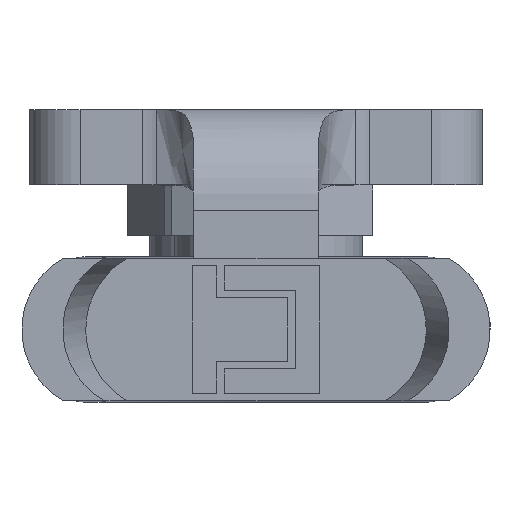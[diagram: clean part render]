
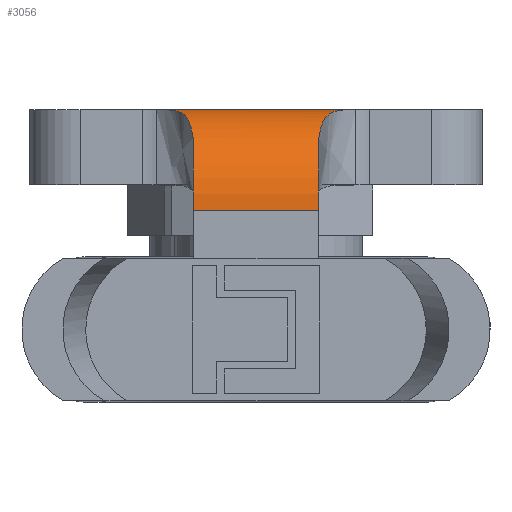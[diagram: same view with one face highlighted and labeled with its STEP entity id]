
A CAD part, left-side view. The second image highlights one B-rep face of the part: STEP entity #3056.
In plain terms, the highlighted cylindrical face has radius 4 mm (diameter 8 mm), a partial arc.
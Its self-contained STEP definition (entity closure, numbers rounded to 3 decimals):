
#19 = DIRECTION ( 'NONE',  ( 0., -1., 0. ) ) ;
#44 = CARTESIAN_POINT ( 'NONE',  ( -66.242, -3.62, -0.006 ) ) ;
#68 = CARTESIAN_POINT ( 'NONE',  ( -66.593, -3.25, -0.044 ) ) ;
#148 = VERTEX_POINT ( 'NONE', #2282 ) ;
#190 = CARTESIAN_POINT ( 'NONE',  ( -66., 3.965, 0. ) ) ;
#316 = ORIENTED_EDGE ( 'NONE', *, *, #3997, .F. ) ;
#360 = CARTESIAN_POINT ( 'NONE',  ( -66., -3.965, 0. ) ) ;
#425 = VECTOR ( 'NONE', #2624, 1000. ) ;
#436 = AXIS2_PLACEMENT_3D ( 'NONE', #3714, #19, #763 ) ;
#507 = B_SPLINE_CURVE_WITH_KNOTS ( 'NONE', 3,
 ( #3396, #2669, #44, #1553, #1950, #3043, #4515, #68, #1574, #813, #559, #982, #3585, #606, #3884, #2491 ),
 .UNSPECIFIED., .F., .F.,
 ( 4, 2, 2, 2, 2, 2, 2, 4 ),
 ( 0., 0.25, 0.375, 0.406, 0.438, 0.5, 0.75, 1. ),
 .UNSPECIFIED. ) ;
#559 = CARTESIAN_POINT ( 'NONE',  ( -66.748, -3.131, -0.07 ) ) ;
#564 = CARTESIAN_POINT ( 'NONE',  ( -67.033, 2.945, -0.135 ) ) ;
#601 = AXIS2_PLACEMENT_3D ( 'NONE', #3341, #4407, #4715 ) ;
#606 = CARTESIAN_POINT ( 'NONE',  ( -68.03, -2.626, -0.533 ) ) ;
#636 = CARTESIAN_POINT ( 'NONE',  ( -67.933, 2.648, -0.477 ) ) ;
#763 = DIRECTION ( 'NONE',  ( 0., 0., 1. ) ) ;
#813 = CARTESIAN_POINT ( 'NONE',  ( -66.693, -3.17, -0.06 ) ) ;
#831 = DIRECTION ( 'NONE',  ( 0., -1., 0. ) ) ;
#841 = CIRCLE ( 'NONE', #913, 4. ) ;
#913 = AXIS2_PLACEMENT_3D ( 'NONE', #1813, #4758, #3002 ) ;
#921 = EDGE_CURVE ( 'NONE', #1015, #1434, #1579, .T. ) ;
#940 = CARTESIAN_POINT ( 'NONE',  ( -66.97, 2.976, -0.119 ) ) ;
#965 = CARTESIAN_POINT ( 'NONE',  ( -66.883, 3.024, -0.099 ) ) ;
#975 = VECTOR ( 'NONE', #831, 1000. ) ;
#982 = CARTESIAN_POINT ( 'NONE',  ( -67.043, -2.947, -0.131 ) ) ;
#988 = CARTESIAN_POINT ( 'NONE',  ( -66.504, 3.296, -0.023 ) ) ;
#1015 = VERTEX_POINT ( 'NONE', #4486 ) ;
#1082 = FACE_OUTER_BOUND ( 'NONE', #2749, .T. ) ;
#1206 = CARTESIAN_POINT ( 'NONE',  ( -66., 9., 0. ) ) ;
#1334 = CARTESIAN_POINT ( 'NONE',  ( -66.786, 3.086, -0.078 ) ) ;
#1434 = VERTEX_POINT ( 'NONE', #4554 ) ;
#1447 = EDGE_CURVE ( 'NONE', #2041, #2148, #4534, .T. ) ;
#1553 = CARTESIAN_POINT ( 'NONE',  ( -66.412, -3.423, -0.021 ) ) ;
#1574 = CARTESIAN_POINT ( 'NONE',  ( -66.617, -3.23, -0.048 ) ) ;
#1579 = LINE ( 'NONE', #4079, #425 ) ;
#1695 = B_SPLINE_CURVE_WITH_KNOTS ( 'NONE', 3,
 ( #4340, #2112, #636, #4268, #4677, #564, #940, #965, #2042, #3590, #1747, #1334, #2840, #2426, #2061, #988, #3542, #190 ),
 .UNSPECIFIED., .F., .F.,
 ( 4, 2, 2, 2, 2, 2, 2, 2, 4 ),
 ( 0., 0.25, 0.375, 0.438, 0.469, 0.484, 0.492, 0.5, 1. ),
 .UNSPECIFIED. ) ;
#1721 = ORIENTED_EDGE ( 'NONE', *, *, #1447, .F. ) ;
#1747 = CARTESIAN_POINT ( 'NONE',  ( -66.805, 3.073, -0.082 ) ) ;
#1813 = CARTESIAN_POINT ( 'NONE',  ( -66., 2.5, -4. ) ) ;
#1950 = CARTESIAN_POINT ( 'NONE',  ( -66.468, -3.365, -0.027 ) ) ;
#2041 = VERTEX_POINT ( 'NONE', #4006 ) ;
#2042 = CARTESIAN_POINT ( 'NONE',  ( -66.856, 3.04, -0.093 ) ) ;
#2061 = CARTESIAN_POINT ( 'NONE',  ( -66.761, 3.104, -0.073 ) ) ;
#2071 = EDGE_CURVE ( 'NONE', #148, #2041, #1695, .T. ) ;
#2112 = CARTESIAN_POINT ( 'NONE',  ( -68.364, 2.566, -0.72 ) ) ;
#2148 = VERTEX_POINT ( 'NONE', #360 ) ;
#2164 = ORIENTED_EDGE ( 'NONE', *, *, #2071, .F. ) ;
#2282 = CARTESIAN_POINT ( 'NONE',  ( -68.787, 2.5, -1.131 ) ) ;
#2321 = EDGE_CURVE ( 'NONE', #2148, #3274, #507, .T. ) ;
#2426 = CARTESIAN_POINT ( 'NONE',  ( -66.768, 3.098, -0.074 ) ) ;
#2491 = CARTESIAN_POINT ( 'NONE',  ( -68.787, -2.5, -1.131 ) ) ;
#2537 = CYLINDRICAL_SURFACE ( 'NONE', #601, 4. ) ;
#2624 = DIRECTION ( 'NONE',  ( 0., -1., 0. ) ) ;
#2669 = CARTESIAN_POINT ( 'NONE',  ( -66.123, -3.778, 0. ) ) ;
#2749 = EDGE_LOOP ( 'NONE', ( #316, #4727, #1721, #2164, #3937, #3942 ) ) ;
#2840 = CARTESIAN_POINT ( 'NONE',  ( -66.78, 3.09, -0.077 ) ) ;
#3002 = DIRECTION ( 'NONE',  ( 0., 0., 1. ) ) ;
#3043 = CARTESIAN_POINT ( 'NONE',  ( -66.536, -3.3, -0.036 ) ) ;
#3056 = ADVANCED_FACE ( 'NONE', ( #1082 ), #2537, .T. ) ;
#3252 = EDGE_CURVE ( 'NONE', #1015, #148, #841, .T. ) ;
#3274 = VERTEX_POINT ( 'NONE', #4476 ) ;
#3341 = CARTESIAN_POINT ( 'NONE',  ( -66., -9.343, -4. ) ) ;
#3396 = CARTESIAN_POINT ( 'NONE',  ( -66., -3.965, 0. ) ) ;
#3542 = CARTESIAN_POINT ( 'NONE',  ( -66.25, 3.582, 0. ) ) ;
#3585 = CARTESIAN_POINT ( 'NONE',  ( -67.344, -2.824, -0.214 ) ) ;
#3590 = CARTESIAN_POINT ( 'NONE',  ( -66.817, 3.065, -0.084 ) ) ;
#3714 = CARTESIAN_POINT ( 'NONE',  ( -66., -2.5, -4. ) ) ;
#3884 = CARTESIAN_POINT ( 'NONE',  ( -68.416, -2.551, -0.77 ) ) ;
#3937 = ORIENTED_EDGE ( 'NONE', *, *, #3252, .F. ) ;
#3942 = ORIENTED_EDGE ( 'NONE', *, *, #921, .T. ) ;
#3997 = EDGE_CURVE ( 'NONE', #3274, #1434, #4097, .T. ) ;
#4006 = CARTESIAN_POINT ( 'NONE',  ( -66., 3.965, 0. ) ) ;
#4079 = CARTESIAN_POINT ( 'NONE',  ( -70., -9., -4. ) ) ;
#4097 = CIRCLE ( 'NONE', #436, 4. ) ;
#4268 = CARTESIAN_POINT ( 'NONE',  ( -67.4, 2.8, -0.248 ) ) ;
#4340 = CARTESIAN_POINT ( 'NONE',  ( -68.787, 2.5, -1.131 ) ) ;
#4407 = DIRECTION ( 'NONE',  ( 0., 1., 0. ) ) ;
#4476 = CARTESIAN_POINT ( 'NONE',  ( -68.787, -2.5, -1.131 ) ) ;
#4486 = CARTESIAN_POINT ( 'NONE',  ( -70., 2.5, -4. ) ) ;
#4515 = CARTESIAN_POINT ( 'NONE',  ( -66.546, -3.291, -0.037 ) ) ;
#4534 = LINE ( 'NONE', #1206, #975 ) ;
#4554 = CARTESIAN_POINT ( 'NONE',  ( -70., -2.5, -4. ) ) ;
#4677 = CARTESIAN_POINT ( 'NONE',  ( -67.24, 2.855, -0.194 ) ) ;
#4715 = DIRECTION ( 'NONE',  ( 0., 0., 1. ) ) ;
#4727 = ORIENTED_EDGE ( 'NONE', *, *, #2321, .F. ) ;
#4758 = DIRECTION ( 'NONE',  ( 0., 1., 0. ) ) ;
